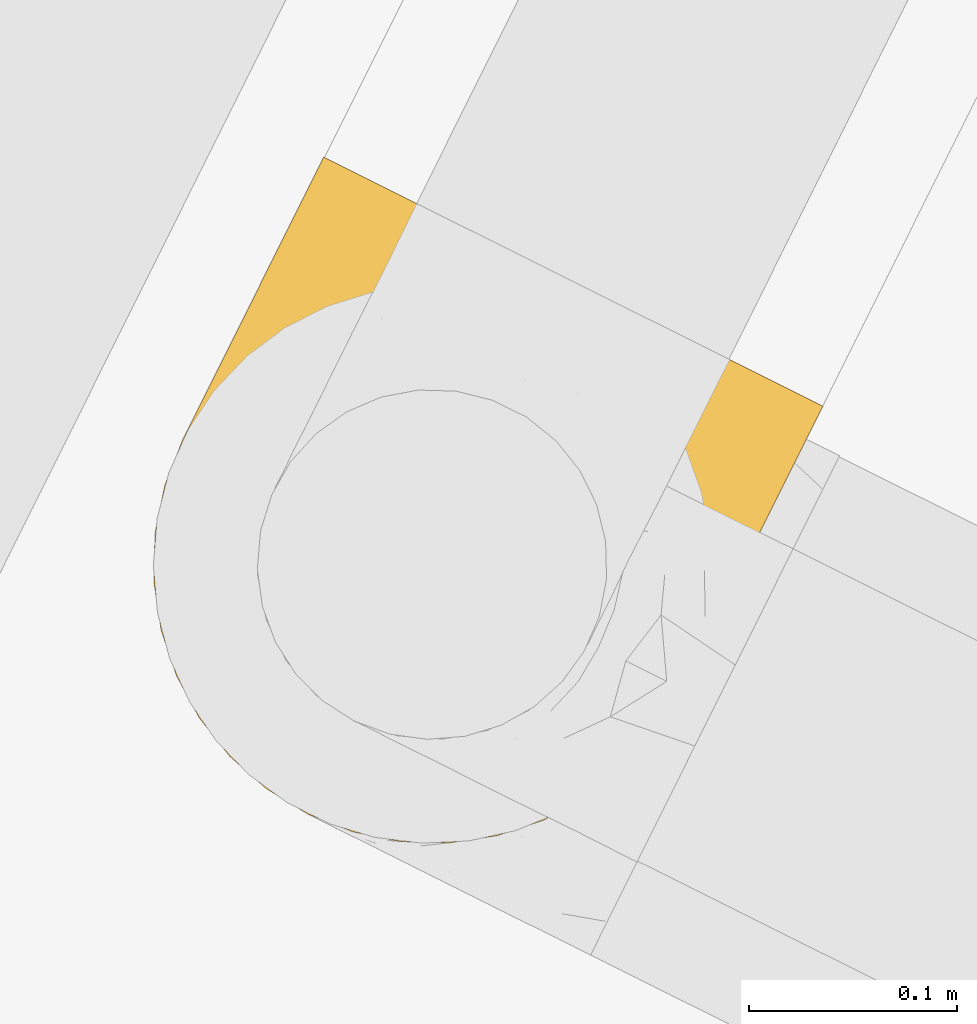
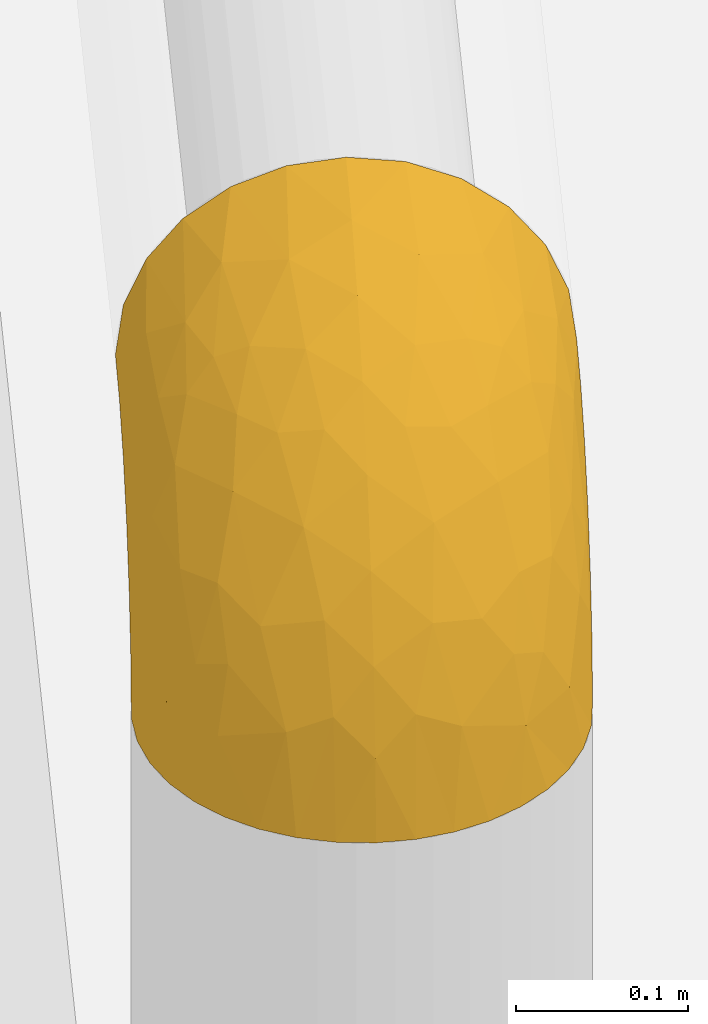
# One storey, part 37 of 91: 1 covering.
"""IFC2X3 building model written with IfcOpenShell, lengths in metres."""

from ifc_helpers import new_model, entity, si_unit, converted_unit, derived_unit, direction, frame, origin, place, context, subcontext, project, spatial, faceted_brep, element, save


model = new_model("IFC2X3")

# Units and contexts
model_context = context("Model", 3, precision=1e-05, world=origin(), true_north=direction((0.894925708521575, 0.446215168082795)))
context_of_model = context(None, 3, precision=1e-05, world=origin(), true_north=direction((0.894925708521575, 0.446215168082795)))
body_context = subcontext(model_context, "Body", "Model", "MODEL_VIEW")
ifc_project = project(units=[si_unit("LENGTHUNIT", "METRE"), si_unit("AREAUNIT", "SQUARE_METRE"), si_unit("VOLUMEUNIT", "CUBIC_METRE"), converted_unit("PLANEANGLEUNIT", "DEGREE", entity("IfcRatioMeasure", 0.0174532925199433), si_unit("PLANEANGLEUNIT", "RADIAN"), dimensions=[0, 0, 0, 0, 0, 0, 0]), si_unit("MASSUNIT", "GRAM", prefix="KILO"), si_unit("TIMEUNIT", "SECOND"), si_unit("FREQUENCYUNIT", "HERTZ"), si_unit("THERMODYNAMICTEMPERATUREUNIT", "DEGREE_CELSIUS"), derived_unit("THERMALTRANSMITTANCEUNIT", [(si_unit("MASSUNIT", "GRAM", prefix="KILO"), 1), (si_unit("THERMODYNAMICTEMPERATUREUNIT", "KELVIN"), -1), (si_unit("TIMEUNIT", "SECOND"), -3)]), derived_unit("VOLUMETRICFLOWRATEUNIT", [(si_unit("LENGTHUNIT", "METRE"), 3), (si_unit("TIMEUNIT", "SECOND"), -1)]), si_unit("ELECTRICCURRENTUNIT", "AMPERE"), si_unit("ELECTRICVOLTAGEUNIT", "VOLT"), si_unit("POWERUNIT", "WATT"), si_unit("FORCEUNIT", "NEWTON", prefix="KILO"), si_unit("ILLUMINANCEUNIT", "LUX"), si_unit("LUMINOUSFLUXUNIT", "LUMEN"), si_unit("LUMINOUSINTENSITYUNIT", "CANDELA"), si_unit("PRESSUREUNIT", "PASCAL")], contexts=[model_context, context_of_model])

# Site, building, storey
site_placement = place(None, frame((218.228324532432, 584.720189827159, 0.0), z_axis=(0.0, 0.0, 1.0), x_axis=(0.446215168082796, 0.894925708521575, 0.0)))
site = spatial("IfcSite", under=ifc_project, at=site_placement, Name="Default", CompositionType="ELEMENT")
building_placement = place(site_placement, origin())
building = spatial("IfcBuilding", under=site, at=building_placement, CompositionType="ELEMENT")
storey_placement = place(building_placement, origin())
storey = spatial("IfcBuildingStorey", under=building, at=storey_placement, Name="0 - Piano Terra", CompositionType="ELEMENT", Elevation=0.0)

# Covering
covering_placement = place(storey_placement, frame((-36.2585976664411, -4.52096176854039, 3.74640472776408)))
element("IfcCovering", 1, at=covering_placement, inside=storey, Name="Isolamento tubazione:Default", ObjectType="Isolamento tubazione:Default", PredefinedType="INSULATION", context=body_context, shape_type="Brep", body=[
    faceted_brep([(0.0898657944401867, 0.00968458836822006, 0.00159527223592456), (0.0686705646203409, 0.0195677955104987, 0.00159527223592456), (0.0495131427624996, 0.0329822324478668, 0.00159527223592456), (0.0329768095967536, 0.0495196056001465, 0.00159527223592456), (0.0195645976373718, 0.06867610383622, 0.00159527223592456), (0.00968379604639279, 0.0898679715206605, 0.00159527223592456), (0.00363311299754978, 0.112451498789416, 0.00159527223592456), (0.0015952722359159, 0.135745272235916, 0.00159527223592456), (0.00363279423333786, 0.159037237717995, 0.00159527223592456), (0.00968458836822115, 0.181624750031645, 0.00159527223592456), (0.0195677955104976, 0.202819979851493, 0.00159527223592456), (0.0329822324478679, 0.221977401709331, 0.00159527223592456), (0.0495196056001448, 0.238513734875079, 0.00159527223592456), (0.0686761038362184, 0.251925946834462, 0.00159527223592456), (0.0898679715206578, 0.26180674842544, 0.00159527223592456), (0.112451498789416, 0.267857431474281, 0.00159527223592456), (0.135745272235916, 0.269895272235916, 0.00159527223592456), (0.150442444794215, 0.268609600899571, 0.00159527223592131), (0.159037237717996, 0.267857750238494, 0.00159527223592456), (0.181624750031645, 0.261805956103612, 0.00159527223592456), (0.202819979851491, 0.251922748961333, 0.00159527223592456), (0.221977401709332, 0.238508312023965, 0.00159527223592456), (0.238513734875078, 0.221970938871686, 0.00159527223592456), (0.25192594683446, 0.202814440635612, 0.00159527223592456), (0.261806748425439, 0.181622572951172, 0.00159527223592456), (0.267857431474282, 0.159039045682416, 0.00159527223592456), (0.269895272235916, 0.135745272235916, 0.00159527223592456), (0.267857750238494, 0.112453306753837, 0.00159527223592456), (0.26180595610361, 0.0898657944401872, 0.00159527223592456), (0.251922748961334, 0.0686705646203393, 0.00159527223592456), (0.238508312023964, 0.0495131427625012, 0.00159527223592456), (0.221970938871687, 0.032976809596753, 0.00159527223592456), (0.202814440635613, 0.0195645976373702, 0.00159527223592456), (0.181622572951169, 0.0096837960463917, 0.00159527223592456), (0.159039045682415, 0.0036331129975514, 0.00159527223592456), (0.150442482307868, 0.0028810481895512, 0.00159527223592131), (0.135745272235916, 0.00159527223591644, 0.00159527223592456), (0.112453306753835, 0.0036327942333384, 0.00159527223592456), (0.287745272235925, 0.135745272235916, 0.0194452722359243), (0.287745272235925, 0.170465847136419, 0.0240163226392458), (0.287745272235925, 0.202820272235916, 0.0374179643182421), (0.287745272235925, 0.230603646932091, 0.0587368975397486), (0.28774527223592, 0.241263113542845, 0.072628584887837), (0.287745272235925, 0.251922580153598, 0.0865202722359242), (0.287745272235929, 0.258623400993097, 0.102697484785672), (0.287745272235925, 0.265324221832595, 0.118874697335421), (0.287745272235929, 0.267930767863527, 0.138673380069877), (0.287745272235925, 0.269895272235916, 0.153595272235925), (0.287745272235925, 0.265324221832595, 0.188315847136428), (0.287745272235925, 0.251922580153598, 0.220670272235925), (0.287745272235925, 0.230603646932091, 0.2484536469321), (0.287745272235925, 0.202820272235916, 0.269772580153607), (0.287745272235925, 0.170465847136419, 0.283174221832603), (0.287745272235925, 0.135745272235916, 0.287745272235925), (0.287745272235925, 0.101024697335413, 0.283174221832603), (0.287745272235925, 0.0686702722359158, 0.269772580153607), (0.287745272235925, 0.0408868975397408, 0.2484536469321), (0.287745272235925, 0.0195679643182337, 0.220670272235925), (0.287745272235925, 0.00616632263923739, 0.188315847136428), (0.287745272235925, 0.0015952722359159, 0.153595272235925), (0.28774527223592, 0.00355977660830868, 0.138673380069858), (0.287745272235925, 0.00616632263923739, 0.118874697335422), (0.287745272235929, 0.0128671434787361, 0.102697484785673), (0.287745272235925, 0.0195679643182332, 0.0865202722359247), (0.287745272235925, 0.0302274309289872, 0.0726285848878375), (0.287745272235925, 0.0408868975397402, 0.0587368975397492), (0.287745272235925, 0.0686702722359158, 0.0374179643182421), (0.287745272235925, 0.101024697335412, 0.0240163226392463), (0.210001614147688, 0.0978975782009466, 0.271314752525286), (0.231920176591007, 0.135745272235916, 0.282246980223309), (0.178240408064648, 0.135745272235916, 0.265963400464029), (0.00709356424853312, 0.135745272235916, 0.0574203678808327), (0.015403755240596, 0.11177261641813, 0.0820986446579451), (0.0233771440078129, 0.135745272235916, 0.111100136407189), (0.0376709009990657, 0.100505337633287, 0.130709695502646), (0.0481840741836, 0.0712492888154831, 0.125328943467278), (0.0702767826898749, 0.0978507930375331, 0.179056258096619), (0.151109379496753, 0.103999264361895, 0.248670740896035), (0.165181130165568, 0.0722251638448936, 0.242351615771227), (0.232322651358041, 0.0160910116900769, 0.206901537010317), (0.100876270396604, 0.0585523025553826, 0.184829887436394), (0.0745185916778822, 0.0480332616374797, 0.138701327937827), (0.0977471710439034, 0.0275482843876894, 0.133518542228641), (0.207358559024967, 0.0374034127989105, 0.231170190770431), (0.128768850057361, 0.135745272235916, 0.239520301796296), (0.111071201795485, 0.0106572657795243, 0.0963262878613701), (0.136565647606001, 0.0137471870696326, 0.144150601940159), (0.0854066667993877, 0.135745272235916, 0.203933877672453), (0.0498202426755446, 0.135745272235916, 0.16057169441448), (0.196714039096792, 0.00879690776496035, 0.174453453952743), (0.246573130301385, 0.00413805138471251, 0.174763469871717), (0.229030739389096, 0.059775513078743, 0.257512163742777), (0.0640871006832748, 0.0346326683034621, 0.0890858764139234), (0.183107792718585, 0.0201514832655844, 0.195203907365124), (0.248404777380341, 0.00159527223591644, 0.148415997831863), (0.261013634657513, 0.00159527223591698, 0.150075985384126), (0.273622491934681, 0.00159527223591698, 0.151735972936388), (0.21174527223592, 0.00159527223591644, 0.133231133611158), (0.230075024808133, 0.00159527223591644, 0.14082356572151), (0.0770419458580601, 0.0184912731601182, 0.0542155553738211), (0.113769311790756, 0.0852623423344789, 0.216229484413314), (0.107834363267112, 0.112239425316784, 0.221437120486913), (0.147309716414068, 0.00457586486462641, 0.114385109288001), (0.0413634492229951, 0.0460705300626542, 0.0534187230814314), (0.180265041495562, 0.00159527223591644, 0.109075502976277), (0.196005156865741, 0.00159527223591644, 0.121153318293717), (0.0201292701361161, 0.0846630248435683, 0.0692840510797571), (0.133296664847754, 0.0628689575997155, 0.216476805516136), (0.165471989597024, 0.035525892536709, 0.209477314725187), (0.139152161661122, 0.0271302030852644, 0.178111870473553), (0.126495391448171, 0.00380519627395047, 0.0727455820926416), (0.137604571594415, 0.00159527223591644, 0.0157180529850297), (0.139264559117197, 0.00159527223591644, 0.0283269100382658), (0.140924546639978, 0.00159527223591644, 0.0409357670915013), (0.156109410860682, 0.00159527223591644, 0.0775952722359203), (0.168187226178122, 0.00159527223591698, 0.0933353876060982), (0.174226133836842, 0.00159527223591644, 0.101205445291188), (0.0494438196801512, 0.0525693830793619, 0.0985026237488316), (0.172088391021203, 0.0516583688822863, 0.230568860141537), (0.148516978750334, 0.00159527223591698, 0.0592655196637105), (0.203107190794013, 0.0140501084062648, 0.0459388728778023), (0.180411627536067, 0.00515149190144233, 0.0581385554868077), (0.187823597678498, 0.00998506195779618, 0.034828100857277), (0.261122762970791, 0.00597455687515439, 0.116556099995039), (0.240538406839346, 0.00407410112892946, 0.118774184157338), (0.265974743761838, 0.0131113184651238, 0.0967572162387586), (0.232284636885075, 0.037290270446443, 0.0267051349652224), (0.25140106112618, 0.0618583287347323, 0.0183768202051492), (0.271793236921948, 0.023876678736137, 0.0779077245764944), (0.270689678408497, 0.0329408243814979, 0.0651642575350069), (0.218093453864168, 0.00860195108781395, 0.0857137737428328), (0.270487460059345, 0.108517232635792, 0.0129209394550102), (0.273294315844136, 0.0472120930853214, 0.0507267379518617), (0.259195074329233, 0.043332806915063, 0.0483204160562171), (0.272063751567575, 0.0677174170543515, 0.0344198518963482), (0.199529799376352, 0.00552610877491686, 0.0825972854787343), (0.276519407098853, 0.0987608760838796, 0.0217256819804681), (0.265322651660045, 0.080933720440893, 0.020854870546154), (0.248077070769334, 0.0419407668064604, 0.0412635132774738), (0.237479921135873, 0.0232259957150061, 0.0624822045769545), (0.275123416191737, 0.135745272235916, 0.0142171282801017), (0.241491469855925, 0.0425649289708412, 0.0322552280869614), (0.218961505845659, 0.0174802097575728, 0.0575657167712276), (0.223015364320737, 0.00424775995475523, 0.109061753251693), (0.251119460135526, 0.0120623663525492, 0.094700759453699), (0.171601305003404, 0.00575824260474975, 0.0267645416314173), (0.173207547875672, 0.00539278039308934, 0.0384038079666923), (0.169015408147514, 0.00335207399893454, 0.0554200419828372), (0.216819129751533, 0.0269382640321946, 0.0209965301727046), (0.255637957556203, 0.0595709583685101, 0.0280072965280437), (0.186924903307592, 0.00501283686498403, 0.0701367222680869), (0.241344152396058, 0.0136501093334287, 0.0861174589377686), (0.269882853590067, 0.00420057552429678, 0.126009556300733), (0.256110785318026, 0.029030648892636, 0.0648331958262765), (0.270689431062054, 0.238549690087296, 0.0651641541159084), (0.273293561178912, 0.224278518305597, 0.0507265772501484), (0.256109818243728, 0.24246051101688, 0.0648336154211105), (0.232290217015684, 0.234195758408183, 0.0267056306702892), (0.276841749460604, 0.165365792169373, 0.019730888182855), (0.216823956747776, 0.244549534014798, 0.0209997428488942), (0.16902307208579, 0.268137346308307, 0.055420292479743), (0.156109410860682, 0.269895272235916, 0.0775952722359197), (0.180414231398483, 0.266339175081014, 0.0581446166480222), (0.272062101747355, 0.203774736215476, 0.0344201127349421), (0.218973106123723, 0.254003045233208, 0.0575584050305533), (0.203112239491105, 0.257439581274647, 0.0459445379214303), (0.269417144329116, 0.165959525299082, 0.0124412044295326), (0.265322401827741, 0.190554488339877, 0.020852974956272), (0.2610136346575, 0.269895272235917, 0.150075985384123), (0.27362249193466, 0.269895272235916, 0.151735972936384), (0.218093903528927, 0.262888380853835, 0.0857133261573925), (0.237476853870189, 0.248264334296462, 0.0624792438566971), (0.240538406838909, 0.267416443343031, 0.118774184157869), (0.21174527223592, 0.269895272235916, 0.133231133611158), (0.230075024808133, 0.269895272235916, 0.14082356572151), (0.140924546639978, 0.269895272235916, 0.0409357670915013), (0.14851697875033, 0.269895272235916, 0.0592655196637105), (0.171606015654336, 0.265731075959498, 0.0267635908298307), (0.265974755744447, 0.258379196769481, 0.0967571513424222), (0.27179322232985, 0.247613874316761, 0.0779077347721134), (0.261122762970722, 0.265515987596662, 0.116556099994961), (0.241499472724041, 0.228915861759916, 0.0322502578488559), (0.251404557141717, 0.209625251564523, 0.0183734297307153), (0.255639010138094, 0.211915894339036, 0.0280045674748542), (0.137604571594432, 0.269895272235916, 0.0157180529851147), (0.139264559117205, 0.269895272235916, 0.028326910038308), (0.187829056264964, 0.261503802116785, 0.0348301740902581), (0.248081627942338, 0.229543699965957, 0.0412596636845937), (0.186929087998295, 0.266477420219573, 0.0701406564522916), (0.199534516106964, 0.265962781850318, 0.0825925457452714), (0.180265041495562, 0.269895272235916, 0.109075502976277), (0.173212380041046, 0.266096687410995, 0.0384043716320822), (0.223015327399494, 0.267242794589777, 0.109061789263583), (0.168187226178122, 0.269895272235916, 0.0933353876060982), (0.241343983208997, 0.257840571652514, 0.0861177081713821), (0.251119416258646, 0.259428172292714, 0.0947007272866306), (0.174226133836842, 0.269895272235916, 0.101205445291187), (0.196005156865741, 0.269895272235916, 0.121153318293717), (0.259193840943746, 0.228158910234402, 0.0483209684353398), (0.269882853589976, 0.267289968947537, 0.126009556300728), (0.248404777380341, 0.269895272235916, 0.148415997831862), (0.229030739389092, 0.211715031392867, 0.257512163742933), (0.0770456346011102, 0.253001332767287, 0.0542150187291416), (0.111071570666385, 0.260833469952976, 0.0963259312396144), (0.0977507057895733, 0.243943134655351, 0.133521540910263), (0.0640932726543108, 0.23686203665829, 0.0890885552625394), (0.1967140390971, 0.262693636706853, 0.174453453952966), (0.246573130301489, 0.267352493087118, 0.174763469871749), (0.147309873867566, 0.266914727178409, 0.114384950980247), (0.100886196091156, 0.212936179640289, 0.184842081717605), (0.0481907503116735, 0.200246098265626, 0.125336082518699), (0.0702767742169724, 0.173639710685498, 0.179056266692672), (0.04944816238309, 0.218925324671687, 0.0985045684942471), (0.0201318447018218, 0.18683087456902, 0.0692885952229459), (0.232322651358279, 0.25539953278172, 0.206901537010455), (0.165471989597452, 0.235964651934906, 0.209477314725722), (0.172088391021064, 0.219832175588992, 0.230568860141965), (0.207358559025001, 0.234087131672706, 0.231170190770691), (0.210001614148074, 0.17359296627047, 0.271314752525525), (0.183107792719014, 0.251339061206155, 0.195203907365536), (0.151109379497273, 0.16749128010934, 0.248670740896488), (0.165181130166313, 0.199265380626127, 0.242351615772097), (0.0745190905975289, 0.223454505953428, 0.138706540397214), (0.126495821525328, 0.267685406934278, 0.0727457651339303), (0.113769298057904, 0.186228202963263, 0.216229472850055), (0.139152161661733, 0.244360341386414, 0.178111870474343), (0.136565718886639, 0.257743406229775, 0.144150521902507), (0.041368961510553, 0.225425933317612, 0.0534190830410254), (0.107834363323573, 0.159251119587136, 0.221437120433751), (0.015403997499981, 0.159719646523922, 0.0820983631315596), (0.037916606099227, 0.163547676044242, 0.135045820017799), (0.133303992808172, 0.208621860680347, 0.216481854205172)], [[[0, 1, 2, 3, 4, 5, 6, 7, 8, 9, 10, 11, 12, 13, 14, 15, 16, 17, 18, 19, 20, 21, 22, 23, 24, 25, 26, 27, 28, 29, 30, 31, 32, 33, 34, 35, 36, 37]], [[38, 39, 40, 41, 42, 43, 44, 45, 46, 47, 48, 49, 50, 51, 52, 53, 54, 55, 56, 57, 58, 59, 60, 61, 62, 63, 64, 65, 66, 67]], [[68, 69, 70]], [[69, 54, 53]], [[71, 72, 73]], [[74, 75, 76]], [[68, 77, 78]], [[79, 58, 57]], [[68, 55, 54]], [[80, 81, 82]], [[83, 57, 56]], [[84, 77, 70]], [[85, 86, 82]], [[76, 87, 88]], [[89, 90, 79]], [[91, 83, 56]], [[92, 82, 81]], [[89, 93, 86]], [[90, 94, 95, 96, 59]], [[90, 97, 98, 94]], [[99, 1, 0]], [[59, 58, 90]], [[100, 101, 76]], [[102, 86, 85]], [[89, 102, 97]], [[100, 78, 77]], [[103, 99, 92]], [[102, 104, 105, 97]], [[55, 91, 56]], [[74, 73, 72]], [[72, 6, 5]], [[4, 106, 5]], [[80, 107, 100]], [[106, 72, 5]], [[82, 99, 85]], [[3, 103, 4]], [[108, 109, 93]], [[71, 7, 6]], [[76, 75, 80]], [[103, 3, 2]], [[54, 69, 68]], [[110, 36, 111, 112, 113]], [[2, 1, 103]], [[110, 114, 102]], [[102, 114, 115, 116, 104]], [[36, 110, 37]], [[4, 103, 106]], [[99, 37, 85]], [[79, 93, 89]], [[102, 85, 110]], [[117, 103, 92]], [[117, 106, 103]], [[1, 99, 103]], [[107, 108, 118]], [[37, 99, 0]], [[73, 74, 88]], [[89, 86, 102]], [[68, 78, 91]], [[82, 86, 109]], [[80, 82, 109]], [[82, 92, 99]], [[68, 91, 55]], [[118, 91, 78]], [[6, 72, 71]], [[74, 106, 75]], [[80, 75, 81]], [[117, 81, 75]], [[57, 83, 79]], [[83, 108, 93]], [[37, 110, 85]], [[110, 113, 119, 114]], [[81, 117, 92]], [[106, 117, 75]], [[70, 77, 68]], [[84, 87, 101]], [[77, 84, 101]], [[80, 100, 76]], [[76, 101, 87]], [[77, 101, 100]], [[83, 93, 79]], [[86, 93, 109]], [[118, 108, 83]], [[80, 109, 108]], [[91, 118, 83]], [[107, 118, 78]], [[100, 107, 78]], [[108, 107, 80]], [[79, 90, 58]], [[90, 89, 97]], [[88, 74, 76]], [[106, 74, 72]], [[120, 121, 122]], [[60, 59, 96, 95, 61]], [[123, 124, 125]], [[126, 29, 127]], [[127, 29, 28]], [[123, 98, 124]], [[128, 129, 65]], [[104, 130, 105]], [[131, 27, 26]], [[62, 123, 63]], [[132, 133, 134]], [[104, 116, 135]], [[38, 67, 136]], [[137, 136, 134]], [[138, 133, 139]], [[140, 38, 136]], [[131, 136, 137]], [[126, 141, 142]], [[127, 28, 137]], [[124, 143, 144]], [[145, 33, 32]], [[65, 129, 132]], [[146, 122, 147]], [[148, 122, 31]], [[149, 127, 137]], [[33, 113, 112]], [[35, 34, 112, 111, 36]], [[134, 67, 66]], [[120, 126, 142]], [[33, 145, 113]], [[140, 131, 26]], [[141, 126, 127]], [[126, 120, 148]], [[30, 148, 31]], [[33, 112, 34]], [[28, 27, 131]], [[126, 30, 29]], [[121, 147, 122]], [[31, 122, 32]], [[128, 125, 144]], [[115, 121, 150]], [[121, 115, 114]], [[97, 105, 143]], [[130, 104, 135]], [[139, 142, 138]], [[143, 151, 144]], [[123, 94, 98]], [[62, 61, 152]], [[123, 62, 152]], [[98, 97, 124]], [[143, 124, 97]], [[125, 124, 144]], [[126, 148, 30]], [[122, 148, 120]], [[66, 65, 132]], [[149, 134, 138]], [[125, 128, 64]], [[123, 125, 63]], [[64, 128, 65]], [[64, 63, 125]], [[144, 151, 129]], [[144, 129, 128]], [[129, 153, 132]], [[133, 132, 153]], [[134, 66, 132]], [[153, 151, 139]], [[138, 134, 133]], [[153, 139, 133]], [[142, 139, 130]], [[146, 32, 122]], [[113, 145, 119]], [[94, 152, 95]], [[28, 131, 137]], [[136, 131, 140]], [[134, 136, 67]], [[134, 149, 137]], [[141, 149, 138]], [[149, 141, 127]], [[142, 141, 138]], [[121, 120, 150]], [[147, 121, 114]], [[120, 142, 150]], [[150, 116, 115]], [[135, 150, 142]], [[150, 135, 116]], [[130, 135, 142]], [[114, 119, 147]], [[146, 119, 145]], [[119, 146, 147]], [[32, 146, 145]], [[105, 130, 143]], [[130, 139, 151]], [[130, 151, 143]], [[129, 151, 153]], [[95, 152, 61]], [[123, 152, 94]], [[154, 155, 156]], [[22, 157, 23]], [[38, 140, 158]], [[22, 159, 157]], [[160, 161, 162]], [[39, 158, 163]], [[164, 157, 165]], [[166, 24, 167]], [[168, 169, 47, 46, 45]], [[164, 170, 171]], [[172, 173, 174]], [[175, 176, 177]], [[178, 42, 179]], [[41, 155, 154]], [[39, 163, 40]], [[43, 180, 44]], [[181, 182, 157]], [[182, 183, 167]], [[166, 167, 158]], [[19, 177, 20]], [[17, 16, 184, 185, 18]], [[182, 167, 24]], [[23, 182, 24]], [[186, 21, 20]], [[181, 164, 187]], [[188, 165, 162]], [[22, 21, 159]], [[170, 189, 190]], [[159, 186, 165]], [[191, 20, 177]], [[173, 172, 192]], [[167, 163, 158]], [[23, 157, 182]], [[185, 175, 19]], [[18, 185, 19]], [[162, 165, 186]], [[193, 188, 162]], [[166, 26, 25]], [[194, 170, 192]], [[154, 195, 179]], [[190, 189, 196]], [[172, 174, 180]], [[170, 190, 197]], [[192, 197, 173]], [[156, 198, 171]], [[199, 45, 44]], [[172, 178, 195]], [[180, 200, 199]], [[200, 180, 174]], [[178, 180, 43]], [[192, 172, 195]], [[186, 159, 21]], [[157, 159, 165]], [[183, 163, 167]], [[155, 198, 156]], [[180, 178, 172]], [[42, 41, 179]], [[178, 43, 42]], [[154, 179, 41]], [[178, 179, 195]], [[155, 41, 40]], [[154, 156, 194]], [[40, 163, 155]], [[198, 155, 163]], [[163, 187, 198]], [[171, 198, 187]], [[164, 171, 187]], [[171, 170, 194]], [[175, 177, 19]], [[176, 160, 191]], [[199, 168, 45]], [[38, 158, 39]], [[140, 26, 166]], [[140, 166, 158]], [[24, 166, 25]], [[164, 181, 157]], [[183, 181, 187]], [[181, 183, 182]], [[163, 183, 187]], [[160, 162, 186]], [[193, 162, 161]], [[188, 193, 196]], [[164, 165, 188]], [[189, 170, 164]], [[196, 189, 188]], [[188, 189, 164]], [[191, 160, 186]], [[176, 161, 160]], [[20, 191, 186]], [[176, 191, 177]], [[194, 192, 195]], [[170, 197, 192]], [[154, 194, 195]], [[194, 156, 171]], [[180, 199, 44]], [[168, 199, 200]], [[201, 51, 50]], [[15, 202, 203]], [[204, 202, 205]], [[173, 206, 207]], [[207, 200, 174, 173]], [[47, 207, 48]], [[208, 190, 196, 193, 161]], [[209, 210, 211]], [[13, 202, 14]], [[208, 173, 197, 190]], [[212, 213, 210]], [[48, 207, 214]], [[69, 53, 52]], [[203, 202, 204]], [[215, 216, 217]], [[201, 218, 51]], [[202, 15, 14]], [[70, 69, 218]], [[217, 214, 219]], [[220, 218, 221]], [[201, 50, 217]], [[49, 217, 50]], [[220, 70, 218]], [[222, 209, 204]], [[223, 161, 176, 175]], [[224, 209, 211]], [[204, 225, 226]], [[206, 208, 226]], [[16, 15, 223]], [[15, 203, 223]], [[13, 12, 227]], [[214, 49, 48]], [[202, 227, 205]], [[69, 52, 218]], [[51, 218, 52]], [[202, 13, 227]], [[217, 219, 215]], [[228, 87, 84]], [[73, 229, 71]], [[88, 211, 230]], [[211, 88, 87]], [[11, 227, 12]], [[9, 213, 10]], [[10, 213, 227]], [[229, 8, 71]], [[173, 208, 206]], [[7, 71, 8]], [[213, 229, 230]], [[226, 208, 203]], [[212, 205, 227]], [[228, 220, 224]], [[213, 230, 210]], [[225, 204, 209]], [[208, 223, 203]], [[10, 227, 11]], [[9, 8, 229]], [[226, 225, 219]], [[203, 204, 226]], [[204, 205, 222]], [[216, 201, 217]], [[218, 201, 221]], [[88, 230, 73]], [[229, 213, 9]], [[212, 222, 205]], [[210, 209, 222]], [[219, 214, 206]], [[217, 49, 214]], [[161, 223, 208]], [[223, 175, 185, 184, 16]], [[213, 212, 227]], [[222, 212, 210]], [[224, 220, 221]], [[70, 220, 84]], [[224, 221, 231]], [[228, 211, 87]], [[220, 228, 84]], [[211, 228, 224]], [[226, 219, 206]], [[219, 225, 215]], [[225, 209, 215]], [[216, 231, 221]], [[231, 215, 209]], [[201, 216, 221]], [[215, 231, 216]], [[224, 231, 209]], [[207, 47, 169, 168, 200]], [[214, 207, 206]], [[210, 230, 211]], [[73, 230, 229]]]),
])

save(model, "model.ifc")
